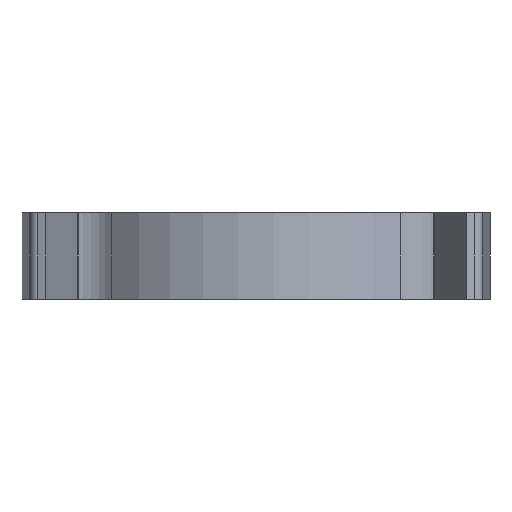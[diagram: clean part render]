
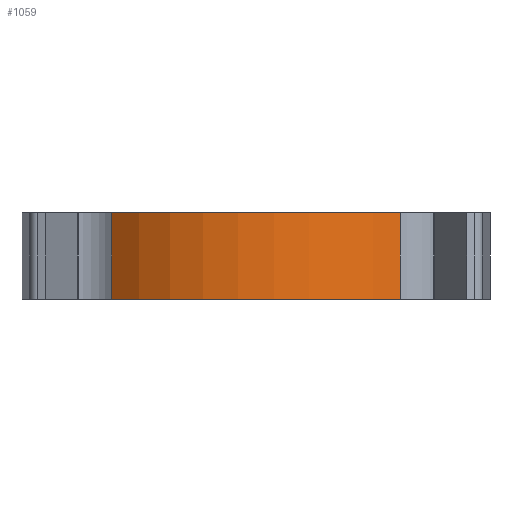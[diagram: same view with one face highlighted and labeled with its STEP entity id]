
A CAD part, front view. The second image highlights one B-rep face of the part: STEP entity #1059.
In plain terms, the highlighted cylindrical face has radius 7.223 mm (diameter 14.446 mm), a partial arc.
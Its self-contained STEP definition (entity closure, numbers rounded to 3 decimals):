
#22 = CIRCLE ( 'NONE', #23, 7.223 ) ;
#23 = AXIS2_PLACEMENT_3D ( 'NONE', #24, #25, #26 ) ;
#24 = CARTESIAN_POINT ( 'NONE',  ( 7.61, 16.229, 0. ) ) ;
#25 = DIRECTION ( 'NONE',  ( 0., 0., 1. ) ) ;
#26 = DIRECTION ( 'NONE',  ( 1., 0., 0. ) ) ;
#56 = CIRCLE ( 'NONE', #57, 7.223 ) ;
#57 = AXIS2_PLACEMENT_3D ( 'NONE', #58, #59, #60 ) ;
#58 = CARTESIAN_POINT ( 'NONE',  ( 7.61, 16.229, 3. ) ) ;
#59 = DIRECTION ( 'NONE',  ( 0., 0., 1. ) ) ;
#60 = DIRECTION ( 'NONE',  ( 1., 0., 0. ) ) ;
#264 = EDGE_CURVE ( 'NONE', #996, #749, #56, .T. ) ;
#351 = CARTESIAN_POINT ( 'NONE',  ( 2.588, 11.039, 3. ) ) ;
#360 = CARTESIAN_POINT ( 'NONE',  ( 2.588, 11.039, 0. ) ) ;
#608 = CARTESIAN_POINT ( 'NONE',  ( 12.633, 11.039, 0. ) ) ;
#620 = ORIENTED_EDGE ( 'NONE', *, *, #264, .F. ) ;
#621 = LINE ( 'NONE', #622, #623 ) ;
#622 = CARTESIAN_POINT ( 'NONE',  ( 2.588, 11.039, 3. ) ) ;
#623 = VECTOR ( 'NONE', #624, 1000. ) ;
#624 = DIRECTION ( 'NONE',  ( 0., 0., -1. ) ) ;
#630 = CARTESIAN_POINT ( 'NONE',  ( 12.633, 11.039, 3. ) ) ;
#668 = LINE ( 'NONE', #669, #670 ) ;
#669 = CARTESIAN_POINT ( 'NONE',  ( 12.633, 11.039, 3. ) ) ;
#670 = VECTOR ( 'NONE', #671, 1000. ) ;
#671 = DIRECTION ( 'NONE',  ( 0., 0., -1. ) ) ;
#676 = FACE_OUTER_BOUND ( 'NONE', #1037, .T. ) ;
#677 = CYLINDRICAL_SURFACE ( 'NONE', #678, 7.223 ) ;
#678 = AXIS2_PLACEMENT_3D ( 'NONE', #679, #680, #681 ) ;
#679 = CARTESIAN_POINT ( 'NONE',  ( 7.61, 16.229, 3. ) ) ;
#680 = DIRECTION ( 'NONE',  ( 0., 0., -1. ) ) ;
#681 = DIRECTION ( 'NONE',  ( -1., 0., 0. ) ) ;
#749 = VERTEX_POINT ( 'NONE', #630 ) ;
#762 = EDGE_CURVE ( 'NONE', #749, #897, #668, .T. ) ;
#806 = ORIENTED_EDGE ( 'NONE', *, *, #762, .F. ) ;
#860 = ORIENTED_EDGE ( 'NONE', *, *, #923, .T. ) ;
#897 = VERTEX_POINT ( 'NONE', #608 ) ;
#923 = EDGE_CURVE ( 'NONE', #996, #999, #621, .T. ) ;
#957 = EDGE_CURVE ( 'NONE', #999, #897, #22, .T. ) ;
#987 = ORIENTED_EDGE ( 'NONE', *, *, #957, .T. ) ;
#996 = VERTEX_POINT ( 'NONE', #351 ) ;
#999 = VERTEX_POINT ( 'NONE', #360 ) ;
#1037 = EDGE_LOOP ( 'NONE', ( #987, #806, #620, #860 ) ) ;
#1059 = ADVANCED_FACE ( 'NONE', ( #676 ), #677, .T. ) ;
